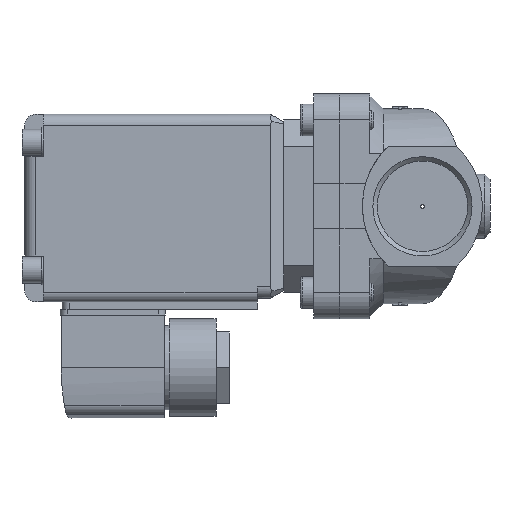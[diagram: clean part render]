
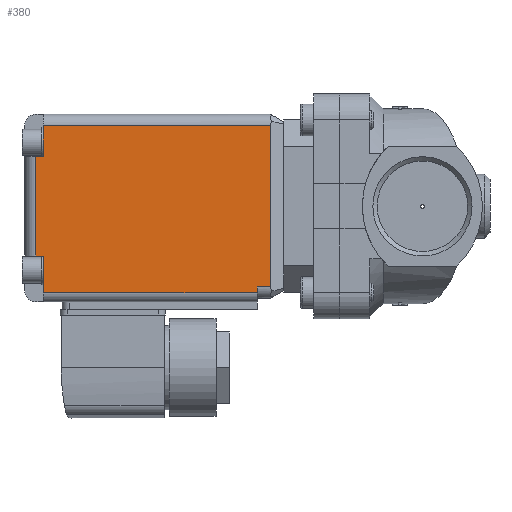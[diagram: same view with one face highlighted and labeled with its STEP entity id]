
A CAD part, left-side view. The second image highlights one B-rep face of the part: STEP entity #380.
In plain terms, the highlighted planar face has unit normal (-1, 0, 0).
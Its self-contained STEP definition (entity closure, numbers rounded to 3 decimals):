
#380 = ADVANCED_FACE( '', ( #956 ), #957, .F. );
#956 = FACE_OUTER_BOUND( '', #1780, .T. );
#957 = PLANE( '', #1781 );
#1780 = EDGE_LOOP( '', ( #2783, #2784, #2785, #2786, #2787, #2788, #2789, #2790, #2791, #2792 ) );
#1781 = AXIS2_PLACEMENT_3D( '', #2793, #2794, #2795 );
#2783 = ORIENTED_EDGE( '', *, *, #4905, .T. );
#2784 = ORIENTED_EDGE( '', *, *, #4906, .T. );
#2785 = ORIENTED_EDGE( '', *, *, #4907, .F. );
#2786 = ORIENTED_EDGE( '', *, *, #4908, .T. );
#2787 = ORIENTED_EDGE( '', *, *, #4794, .T. );
#2788 = ORIENTED_EDGE( '', *, *, #4909, .T. );
#2789 = ORIENTED_EDGE( '', *, *, #4910, .F. );
#2790 = ORIENTED_EDGE( '', *, *, #4911, .F. );
#2791 = ORIENTED_EDGE( '', *, *, #4912, .F. );
#2792 = ORIENTED_EDGE( '', *, *, #4913, .F. );
#2793 = CARTESIAN_POINT( '', ( -24.5, 84., -24.5 ) );
#2794 = DIRECTION( '', ( 1., 0., 0. ) );
#2795 = DIRECTION( '', ( 0., 0., -1. ) );
#4794 = EDGE_CURVE( '', #5714, #5712, #5715, .T. );
#4905 = EDGE_CURVE( '', #5905, #5906, #5907, .T. );
#4906 = EDGE_CURVE( '', #5906, #5908, #5909, .T. );
#4907 = EDGE_CURVE( '', #5910, #5908, #5911, .T. );
#4908 = EDGE_CURVE( '', #5910, #5714, #5912, .T. );
#4909 = EDGE_CURVE( '', #5712, #5913, #5914, .T. );
#4910 = EDGE_CURVE( '', #5915, #5913, #5916, .T. );
#4911 = EDGE_CURVE( '', #5917, #5915, #5918, .T. );
#4912 = EDGE_CURVE( '', #5919, #5917, #5920, .T. );
#4913 = EDGE_CURVE( '', #5905, #5919, #5921, .T. );
#5712 = VERTEX_POINT( '', #7209 );
#5714 = VERTEX_POINT( '', #7211 );
#5715 = LINE( '', #7212, #7213 );
#5905 = VERTEX_POINT( '', #7565 );
#5906 = VERTEX_POINT( '', #7566 );
#5907 = LINE( '', #7567, #7568 );
#5908 = VERTEX_POINT( '', #7569 );
#5909 = LINE( '', #7570, #7571 );
#5910 = VERTEX_POINT( '', #7572 );
#5911 = LINE( '', #7573, #7574 );
#5912 = LINE( '', #7575, #7576 );
#5913 = VERTEX_POINT( '', #7577 );
#5914 = LINE( '', #7578, #7579 );
#5915 = VERTEX_POINT( '', #7580 );
#5916 = LINE( '', #7581, #7582 );
#5917 = VERTEX_POINT( '', #7583 );
#5918 = LINE( '', #7584, #7585 );
#5919 = VERTEX_POINT( '', #7586 );
#5920 = LINE( '', #7587, #7588 );
#5921 = LINE( '', #7589, #7590 );
#7209 = CARTESIAN_POINT( '', ( -24.5, 22., -21.5 ) );
#7211 = CARTESIAN_POINT( '', ( -24.5, 22., -23. ) );
#7212 = CARTESIAN_POINT( '', ( -24.5, 22., -25.5 ) );
#7213 = VECTOR( '', #9013, 1000. );
#7565 = CARTESIAN_POINT( '', ( -24.5, 81., 13.25 ) );
#7566 = CARTESIAN_POINT( '', ( -24.5, 81., -13.25 ) );
#7567 = CARTESIAN_POINT( '', ( -24.5, 81., 26.5 ) );
#7568 = VECTOR( '', #9135, 1000. );
#7569 = CARTESIAN_POINT( '', ( -24.5, 79., -13.25 ) );
#7570 = CARTESIAN_POINT( '', ( -24.5, 84., -13.25 ) );
#7571 = VECTOR( '', #9136, 1000. );
#7572 = CARTESIAN_POINT( '', ( -24.5, 79., -23. ) );
#7573 = CARTESIAN_POINT( '', ( -24.5, 79., -24.5 ) );
#7574 = VECTOR( '', #9137, 1000. );
#7575 = CARTESIAN_POINT( '', ( -24.5, 91., -23. ) );
#7576 = VECTOR( '', #9138, 1000. );
#7577 = CARTESIAN_POINT( '', ( -24.5, 18.5, -21.5 ) );
#7578 = CARTESIAN_POINT( '', ( -24.5, 84., -21.5 ) );
#7579 = VECTOR( '', #9139, 1000. );
#7580 = CARTESIAN_POINT( '', ( -24.5, 18.5, 21.5 ) );
#7581 = CARTESIAN_POINT( '', ( -24.5, 18.5, 24.5 ) );
#7582 = VECTOR( '', #9140, 1000. );
#7583 = CARTESIAN_POINT( '', ( -24.5, 79., 21.5 ) );
#7584 = CARTESIAN_POINT( '', ( -24.5, 84., 21.5 ) );
#7585 = VECTOR( '', #9141, 1000. );
#7586 = CARTESIAN_POINT( '', ( -24.5, 79., 13.25 ) );
#7587 = CARTESIAN_POINT( '', ( -24.5, 79., -24.5 ) );
#7588 = VECTOR( '', #9142, 1000. );
#7589 = CARTESIAN_POINT( '', ( -24.5, 84., 13.25 ) );
#7590 = VECTOR( '', #9143, 1000. );
#9013 = DIRECTION( '', ( 0., 0., 1. ) );
#9135 = DIRECTION( '', ( 0., 0., -1. ) );
#9136 = DIRECTION( '', ( 0., -1., 0. ) );
#9137 = DIRECTION( '', ( 0., 0., 1. ) );
#9138 = DIRECTION( '', ( 0., -1., 0. ) );
#9139 = DIRECTION( '', ( 0., -1., 0. ) );
#9140 = DIRECTION( '', ( 0., 0., -1. ) );
#9141 = DIRECTION( '', ( 0., -1., 0. ) );
#9142 = DIRECTION( '', ( 0., 0., 1. ) );
#9143 = DIRECTION( '', ( 0., -1., 0. ) );
